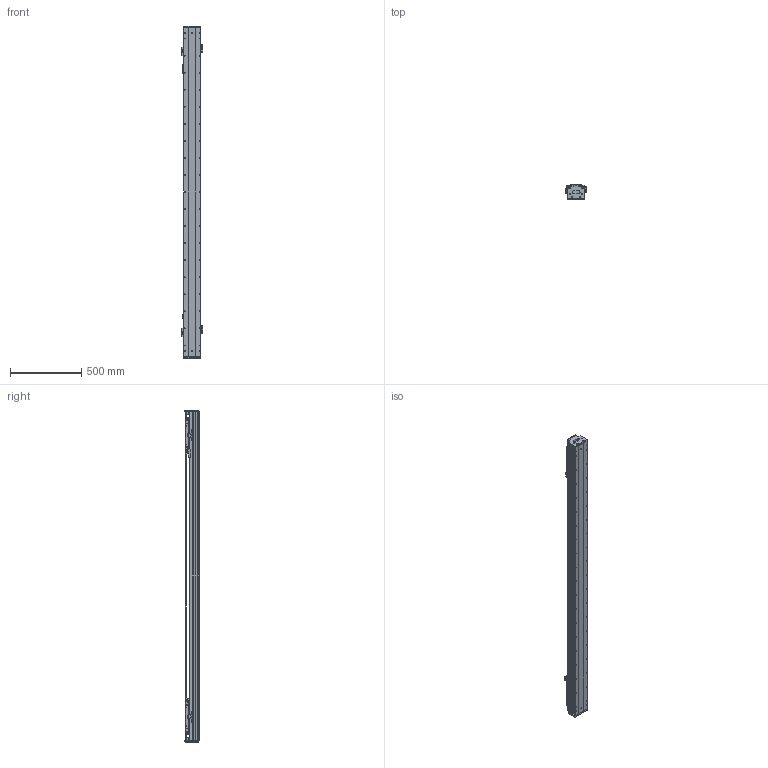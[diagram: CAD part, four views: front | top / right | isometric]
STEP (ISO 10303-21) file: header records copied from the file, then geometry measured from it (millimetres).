
FILE_DESCRIPTION (( 'STEP AP203' ), '1' );
FILE_NAME ('DKW119-2×C3-W060(T1700-L005-0.2).STEP', '2021-09-18T01:14:18', ( '微软用户' ), ( '微软中国' ), 'SwSTEP 2.0', 'SolidWorks 2018', '' );
FILE_SCHEMA (( 'CONFIG_CONTROL_DESIGN' ));
Length unit declared in the file: millimetre
Products named in the file (26): DKW-SG-GYP-H-00 嫖萇覜茼え; 砎蝶猾沭; MSB15-DG-U; RUS嫖掑喜; 12160-0000-003-00 DKW120詩湍嶺輸; DKW119-RU-DTJ-00 RU2黍杅芛盓殤; Ru2; 12160-0000-004-00  DKW120詩湍揤輸; 电机出线 ^DKW119-2×C3-W060(T1700-L005-0.2); CKM03-W060_00; DKW119 单轴模组-拉钢带组件; CKMA01-W060-TRLxxx; DKW-DG-XJ-Z-00 笢潔滅袉砎蝶; pm-y65; DKW-HXJ-JY-00 遣喳砎蝶; DKW-GYP-ZJ-00 笢潔嫖萇覜茼え; 10980-0001-003-00 嫖萇羲壽嘐隅釱; 11062-0001-004-00 DKW119傷啣; DKW-KGZ-ZJ-00 中间光电开关支架; 嫖萇羲壽蚾饜极; 06652-0001-004-00 DKW120嶺輸菜輸; EE_SX674A; 嫖萇羲壽蚾饜极A; 12018-0001-002-00 詩湍; 12018-0001-001-00 菁釱; DKW119-2×C3-W060(T1700-L005-0.2)
Assembly tree (45 placements, depth 3):
  DKW119-2×C3-W060(T1700-L005-0.2)
    12018-0001-001-00 菁釱
    MSB15-DG-U  x2
    DKW119-RU-DTJ-00 RU2黍杅芛盓殤  x2
    电机出线 ^DKW119-2×C3-W060(T1700-L005-0.2)  x2
    CKMA01-W060-TRLxxx
    DKW119 单轴模组-拉钢带组件
      DKW-HXJ-JY-00 遣喳砎蝶  x4
      11062-0001-004-00 DKW119傷啣  x2
      06652-0001-004-00 DKW120嶺輸菜輸  x4
      12018-0001-002-00 詩湍
      砎蝶猾沭  x2
      12160-0000-003-00 DKW120詩湍嶺輸  x2
      12160-0000-004-00  DKW120詩湍揤輸  x2
    嫖萇羲壽蚾饜极
      pm-y65  x2
      10980-0001-003-00 嫖萇羲壽嘐隅釱
    嫖萇羲壽蚾饜极A
      pm-y65  x2
      10980-0001-003-00 嫖萇羲壽嘐隅釱
    DKW-SG-GYP-H-00 嫖萇覜茼え  x2
    RUS嫖掑喜
    Ru2  x2
    CKM03-W060_00  x2
    DKW-DG-XJ-Z-00 笢潔滅袉砎蝶
    DKW-GYP-ZJ-00 笢潔嫖萇覜茼え
    DKW-KGZ-ZJ-00 中间光电开关支架
    EE_SX674A
Bounding box: 154.3 x 99 x 2336 mm (x, y, z)
Volume: 11165751.6 mm3; surface area: 3485993.7 mm2
Topology: 62 solids, 160 shells, 6417 faces, 17094 edges, 11026 vertices
Faces by surface type: plane 3532, cylinder 1953, bspline 494, cone 438
Entity records: 130584 total; most frequent: CARTESIAN_POINT 43627, ORIENTED_EDGE 17515, DIRECTION 16696, EDGE_CURVE 8798, VERTEX_POINT 5782, AXIS2_PLACEMENT_3D 5600, VECTOR 5496, LINE 5496
